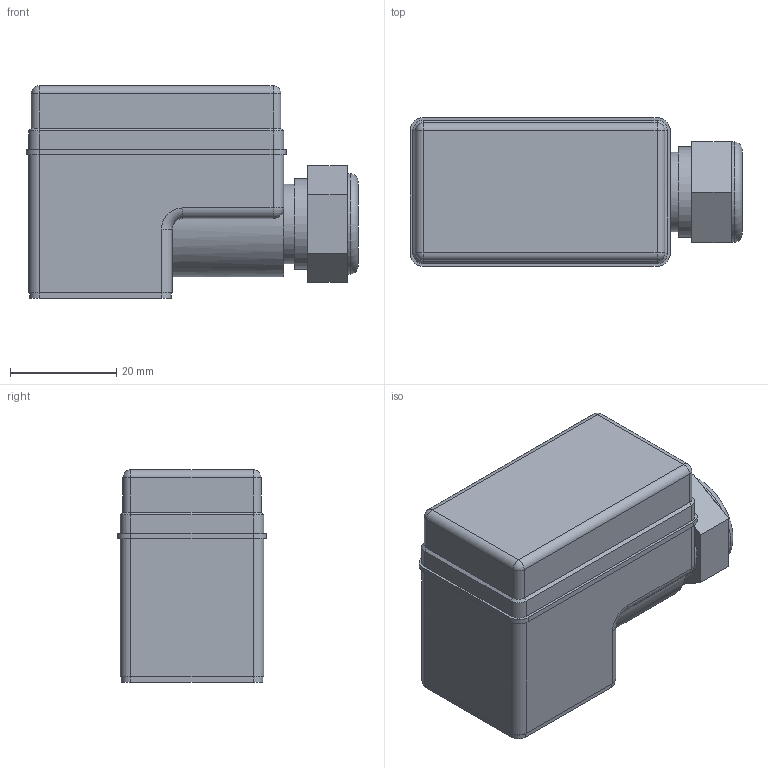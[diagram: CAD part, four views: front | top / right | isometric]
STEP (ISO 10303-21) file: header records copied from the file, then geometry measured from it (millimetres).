
FILE_DESCRIPTION(('Bauteilbeschreibung','HiCAD-Model','HiCAD-STEP-TRANSLATION','Bauteilbeschreibung'),'2;1');
FILE_NAME('K:/STEP_DXF/P03A-1.STP','2006-05-18T18:38:03+00:00',('Konstrukteur'),('Konstrukteur Firma GmbH'),'HiCAD3 V1210 STEP 1.6.2005','HiCAD3 V1210','confidential');
FILE_SCHEMA(('AUTOMOTIVE_DESIGN { 1 2 10303 214 0 1 1 1 }'));
Length unit declared in the file: millimetre
Products named in the file (5): P03A_1; P03A01; A3173A44; A3173A440; DICHTUNG
Assembly tree (4 placements, depth 4):
  P03A_1
    P03A01
      A3173A44
      A3173A440
        DICHTUNG
Bounding box: 62.5 x 28 x 40 mm (x, y, z)
Volume: 50068 mm3; surface area: 10527 mm2
Topology: 2 solids, 2 shells, 92 faces, 216 edges, 128 vertices
Faces by surface type: plane 43, cylinder 36, sphere 6, cone 4, torus 3
Full cylindrical faces by diameter (mm): 15 x1, 17 x1, 18.9 x1
Entity records: 4603 total; most frequent: CARTESIAN_POINT 656, DIRECTION 470, ORIENTED_EDGE 406, COLOUR_RGB 297, PRESENTATION_STYLE_ASSIGNMENT 297, OVER_RIDING_STYLED_ITEM 295, CURVE_STYLE 203, DRAUGHTING_PRE_DEFINED_CURVE_FONT 203
